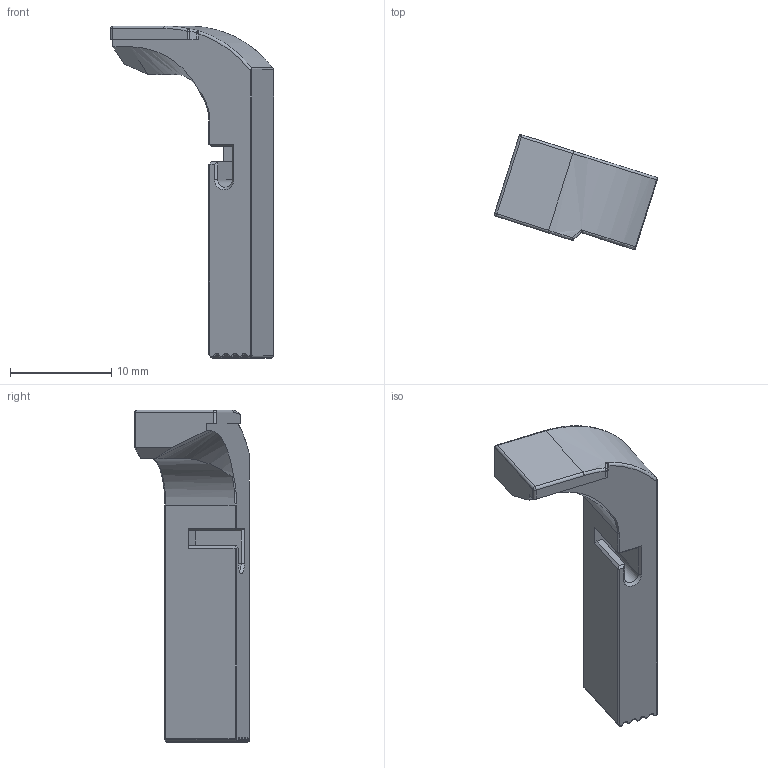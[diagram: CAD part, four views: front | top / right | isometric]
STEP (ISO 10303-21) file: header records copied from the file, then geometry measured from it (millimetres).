
FILE_DESCRIPTION(/* description */ (''),/* implementation_level */ '2;1');
FILE_NAME(/* name */ '/Users/tyler/Downloads/G19 Mag Catch.step',/* time_stamp */ '2019-09-18T22:14:47-04:00',/* author */ (''),/* organization */ (''),/* preprocessor_version */ 'ST-DEVELOPER v18',/* originating_system */ 'Autodesk Translation Framework v8.6.0.1094',/* authorisation */ '');
FILE_SCHEMA (('AUTOMOTIVE_DESIGN { 1 0 10303 214 3 1 1 }'));
Length unit declared in the file: millimetre
Products named in the file (1): Mag Catch
Bounding box: 16.14 x 11.36 x 32.87 mm (x, y, z)
Volume: 1313.4 mm3; surface area: 1071.2 mm2
Topology: 1 solids, 1 shells, 123 faces, 292 edges, 167 vertices
Faces by surface type: cylinder 48, plane 33, bspline 28, torus 10, sphere 3, cone 1
Entity records: 4215 total; most frequent: CARTESIAN_POINT 1441, DIRECTION 578, ORIENTED_EDGE 576, EDGE_CURVE 288, AXIS2_PLACEMENT_3D 222, VERTEX_POINT 167, LINE 134, VECTOR 134
